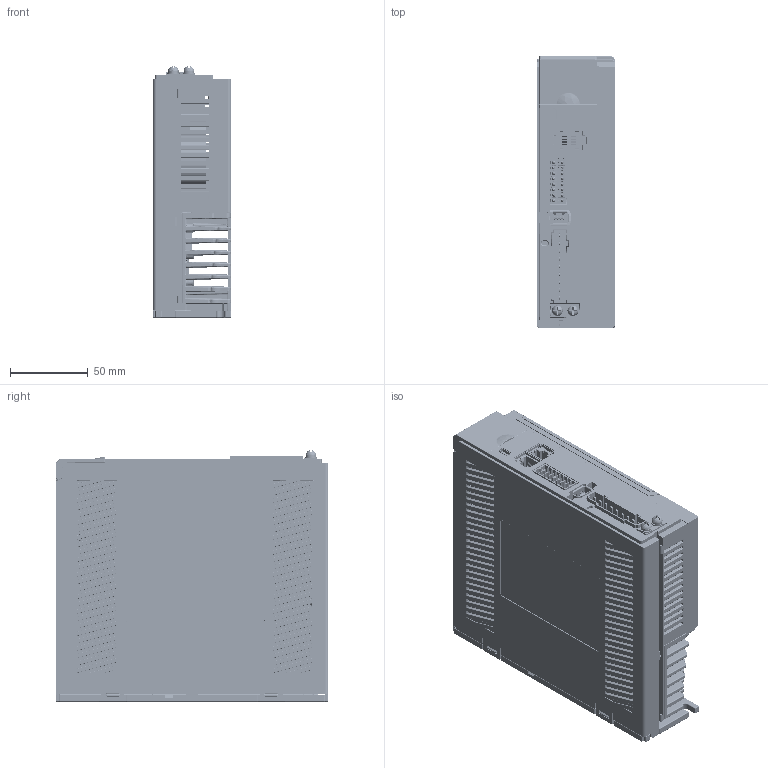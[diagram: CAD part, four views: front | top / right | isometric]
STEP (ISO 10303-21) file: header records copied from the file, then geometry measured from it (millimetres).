
FILE_DESCRIPTION((''),'2;1');
FILE_NAME('L7EC-400_ASM','2022-10-20T',('Administrator'),(''),'PRO/ENGINEER BY PARAMETRIC TECHNOLOGY CORPORATION, 2010280','PRO/ENGINEER BY PARAMETRIC TECHNOLOGY CORPORATION, 2010280','');
FILE_SCHEMA(('CONFIG_CONTROL_DESIGN'));
Products named in the file (31): MSBR-28; MSBR-27; MSBR-26; MSBR-25; MSBR-24; MSBR-23; MSBR-22; MSBR-21; MSBR-20; MSBR-19; MSBR-18; MSBR-17; MSBR-16; MSBR-15; MSBR-14; MSBR-13; MSBR-12; MSBR-11; MSBR-10; MSBR-9; MSBR-8; MSBR-7; MSBR-6; MSBR-5; MSBR-4; MSBR-3; MSBR-2; L7EC-400_ASM_ASM; L8-750-GZ; DB_L7_750_2; L7EC-400_ASM
Assembly tree (30 placements, depth 3):
  L7EC-400_ASM
    L7EC-400_ASM_ASM
      MSBR-28
      MSBR-27
      MSBR-26
      MSBR-25
      MSBR-24
      MSBR-23
      MSBR-22
      MSBR-21
      MSBR-20
      MSBR-19
      MSBR-18
      MSBR-17
      MSBR-16
      MSBR-15
      MSBR-14
      MSBR-13
      MSBR-12
      MSBR-11
      MSBR-10
      MSBR-9
      MSBR-8
      MSBR-7
      MSBR-6
      MSBR-5
      MSBR-4
      MSBR-3
      MSBR-2
    L8-750-GZ
    DB_L7_750_2
Bounding box: 50 x 175 x 161.49 mm (x, y, z)
Volume: 442412.5 mm3; surface area: 342016.2 mm2
Topology: 29 solids, 32 shells, 8887 faces, 22949 edges, 14220 vertices
Faces by surface type: plane 4699, cylinder 2441, bspline 828, sphere 342, torus 264, cone 253, extrusion 56, revolution 4
Entity records: 306819 total; most frequent: CARTESIAN_POINT 96466, ORIENTED_EDGE 45696, DIRECTION 40203, EDGE_CURVE 22854, VECTOR 15327, LINE 15271, VERTEX_POINT 14220, AXIS2_PLACEMENT_3D 12436
